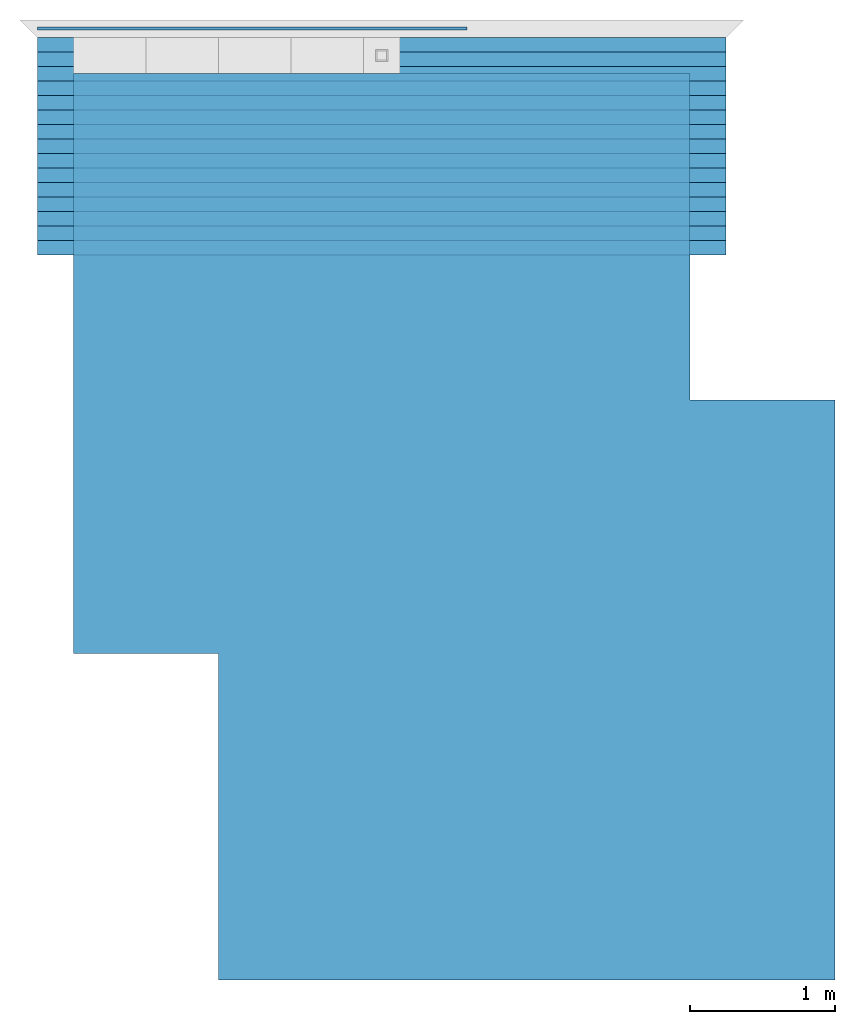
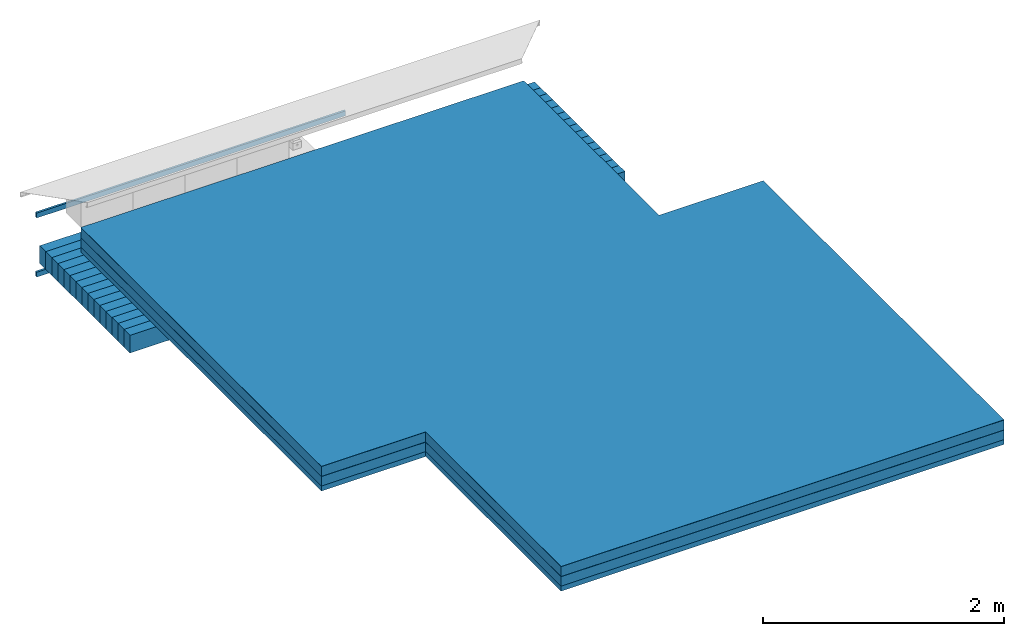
# One storey, part 1 of 2: 15 beams, 5 building element parts, 2 walls, 3 elements without a shape of their own.
"""IFC4 building model written with IfcOpenShell, lengths in centimetres."""

from ifc_helpers import new_model, entity, si_unit, converted_unit, direction, frame, origin, place, context, subcontext, project, spatial, indexed_curve, outline, extrude, source, transform, mapped, material, type_object, type_shapes, element, aggregate, save


model = new_model("IFC4")

# Units and contexts
model_context = context("Model", 3, precision=0.001, world=origin(), true_north=direction((0.0, 1.0)))
body_context = subcontext(model_context, "Body", "Model", "MODEL_VIEW")
ifc_project = project(units=[si_unit("LENGTHUNIT", "METRE", prefix="CENTI"), si_unit("AREAUNIT", "SQUARE_METRE"), si_unit("VOLUMEUNIT", "CUBIC_METRE"), converted_unit("PLANEANGLEUNIT", "DEGREE", entity("IfcPlaneAngleMeasure", 0.017453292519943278), si_unit("PLANEANGLEUNIT", "RADIAN"), dimensions=[0, 0, 0, 0, 0, 0, 0])], contexts=[model_context])

# Site, building, storey
site_placement = place(None, origin())
site = spatial("IfcSite", under=ifc_project, at=site_placement, Name="Default", CompositionType="ELEMENT")
building_placement = place(site_placement, origin())
building = spatial("IfcBuilding", under=site, at=building_placement, CompositionType="ELEMENT")
storey_placement = place(building_placement, frame((0.0, 0.0, 269.29999999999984)))
storey = spatial("IfcBuildingStorey", under=building, at=storey_placement, Name="L01__ABOVE Slab", CompositionType="ELEMENT", Elevation=269.29999999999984)

# Assembly, beams
assembly_placement = place(storey_placement, origin())
assembly = element("IfcElementAssembly", 1, at=assembly_placement, inside=storey, Name="Structural Beam Systems : Structural Beam System : Structural Beam System 1", AssemblyPlace="NOTDEFINED", PredefinedType="BEAM_GRID")
ifc_material_1 = material(Name="_STRUCTURE__Wood Solid")
beam_type = type_object("IfcBeamType", Name="Structural Framing : sfr__WOOD__Rectangular__sf : 10 x 18 cm", PredefinedType="JOIST", material=ifc_material_1)
shared_shape = source(origin(), body_context, "Body", "SweptSolid", [
    extrude(outline(indexed_curve([(-237.49999999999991, -5.000000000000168), (237.49999999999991, -5.000000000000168), (237.49999999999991, 5.000000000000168), (-237.49999999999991, 5.000000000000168), (-237.49999999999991, -5.000000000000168)], self_intersect=False)), frame((0.0, 0.0, -9.0), z_axis=(0.0, 0.0, 1.0), x_axis=(-1.0, 0.0, 0.0)), (0.0, 0.0, 1.0), 17.999999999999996),
])
type_shapes(beam_type, [shared_shape])
beam_1_placement = place(assembly_placement, frame((3350.525694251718, 2583.616415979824, -9.0)))
beam_1 = element("IfcBeam", 2, at=beam_1_placement, type_object=beam_type, material=ifc_material_1, Name="Structural Framing : sfr__WOOD__Rectangular__sf : 10 x 18 cm", PredefinedType="JOIST", context=body_context, shape_type="MappedRepresentation", body=[
    mapped(shared_shape, transform((0.0, 0.0, 0.0), scale=1.0)),
])
beam_2_placement = place(assembly_placement, frame((3350.525694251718, 2573.616415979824, -9.0)))
beam_2 = element("IfcBeam", 3, at=beam_2_placement, type_object=beam_type, material=ifc_material_1, Name="Structural Framing : sfr__WOOD__Rectangular__sf : 10 x 18 cm", PredefinedType="JOIST", context=body_context, shape_type="MappedRepresentation", body=[
    mapped(shared_shape, transform((0.0, 0.0, 0.0), scale=1.0)),
])
beam_3_placement = place(assembly_placement, frame((3350.525694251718, 2563.616415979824, -9.0)))
beam_3 = element("IfcBeam", 4, at=beam_3_placement, type_object=beam_type, material=ifc_material_1, Name="Structural Framing : sfr__WOOD__Rectangular__sf : 10 x 18 cm", PredefinedType="JOIST", context=body_context, shape_type="MappedRepresentation", body=[
    mapped(shared_shape, transform((0.0, 0.0, 0.0), scale=1.0)),
])
beam_4_placement = place(assembly_placement, frame((3350.525694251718, 2553.616415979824, -9.0)))
beam_4 = element("IfcBeam", 5, at=beam_4_placement, type_object=beam_type, material=ifc_material_1, Name="Structural Framing : sfr__WOOD__Rectangular__sf : 10 x 18 cm", PredefinedType="JOIST", context=body_context, shape_type="MappedRepresentation", body=[
    mapped(shared_shape, transform((0.0, 0.0, 0.0), scale=1.0)),
])
beam_5_placement = place(assembly_placement, frame((3350.525694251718, 2543.616415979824, -9.0)))
beam_5 = element("IfcBeam", 6, at=beam_5_placement, type_object=beam_type, material=ifc_material_1, Name="Structural Framing : sfr__WOOD__Rectangular__sf : 10 x 18 cm", PredefinedType="JOIST", context=body_context, shape_type="MappedRepresentation", body=[
    mapped(shared_shape, transform((0.0, 0.0, 0.0), scale=1.0)),
])
beam_6_placement = place(assembly_placement, frame((3350.525694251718, 2533.616415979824, -9.0)))
beam_6 = element("IfcBeam", 7, at=beam_6_placement, type_object=beam_type, material=ifc_material_1, Name="Structural Framing : sfr__WOOD__Rectangular__sf : 10 x 18 cm", PredefinedType="JOIST", context=body_context, shape_type="MappedRepresentation", body=[
    mapped(shared_shape, transform((0.0, 0.0, 0.0), scale=1.0)),
])
beam_7_placement = place(assembly_placement, frame((3350.525694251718, 2523.6164159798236, -9.0)))
beam_7 = element("IfcBeam", 8, at=beam_7_placement, type_object=beam_type, material=ifc_material_1, Name="Structural Framing : sfr__WOOD__Rectangular__sf : 10 x 18 cm", PredefinedType="JOIST", context=body_context, shape_type="MappedRepresentation", body=[
    mapped(shared_shape, transform((0.0, 0.0, 0.0), scale=1.0)),
])
beam_8_placement = place(assembly_placement, frame((3350.525694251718, 2513.616415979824, -9.0)))
beam_8 = element("IfcBeam", 9, at=beam_8_placement, type_object=beam_type, material=ifc_material_1, Name="Structural Framing : sfr__WOOD__Rectangular__sf : 10 x 18 cm", PredefinedType="JOIST", context=body_context, shape_type="MappedRepresentation", body=[
    mapped(shared_shape, transform((0.0, 0.0, 0.0), scale=1.0)),
])
beam_9_placement = place(assembly_placement, frame((3350.525694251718, 2503.616415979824, -9.0)))
beam_9 = element("IfcBeam", 10, at=beam_9_placement, type_object=beam_type, material=ifc_material_1, Name="Structural Framing : sfr__WOOD__Rectangular__sf : 10 x 18 cm", PredefinedType="JOIST", context=body_context, shape_type="MappedRepresentation", body=[
    mapped(shared_shape, transform((0.0, 0.0, 0.0), scale=1.0)),
])
beam_10_placement = place(assembly_placement, frame((3350.525694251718, 2493.616415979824, -9.0)))
beam_10 = element("IfcBeam", 11, at=beam_10_placement, type_object=beam_type, material=ifc_material_1, Name="Structural Framing : sfr__WOOD__Rectangular__sf : 10 x 18 cm", PredefinedType="JOIST", context=body_context, shape_type="MappedRepresentation", body=[
    mapped(shared_shape, transform((0.0, 0.0, 0.0), scale=1.0)),
])
beam_11_placement = place(assembly_placement, frame((3350.525694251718, 2483.616415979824, -9.0)))
beam_11 = element("IfcBeam", 12, at=beam_11_placement, type_object=beam_type, material=ifc_material_1, Name="Structural Framing : sfr__WOOD__Rectangular__sf : 10 x 18 cm", PredefinedType="JOIST", context=body_context, shape_type="MappedRepresentation", body=[
    mapped(shared_shape, transform((0.0, 0.0, 0.0), scale=1.0)),
])
beam_12_placement = place(assembly_placement, frame((3350.525694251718, 2473.616415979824, -9.0)))
beam_12 = element("IfcBeam", 13, at=beam_12_placement, type_object=beam_type, material=ifc_material_1, Name="Structural Framing : sfr__WOOD__Rectangular__sf : 10 x 18 cm", PredefinedType="JOIST", context=body_context, shape_type="MappedRepresentation", body=[
    mapped(shared_shape, transform((0.0, 0.0, 0.0), scale=1.0)),
])
beam_13_placement = place(assembly_placement, frame((3350.525694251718, 2463.616415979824, -9.0)))
beam_13 = element("IfcBeam", 14, at=beam_13_placement, type_object=beam_type, material=ifc_material_1, Name="Structural Framing : sfr__WOOD__Rectangular__sf : 10 x 18 cm", PredefinedType="JOIST", context=body_context, shape_type="MappedRepresentation", body=[
    mapped(shared_shape, transform((0.0, 0.0, 0.0), scale=1.0)),
])
beam_14_placement = place(assembly_placement, frame((3350.525694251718, 2453.616415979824, -9.0)))
beam_14 = element("IfcBeam", 15, at=beam_14_placement, type_object=beam_type, material=ifc_material_1, Name="Structural Framing : sfr__WOOD__Rectangular__sf : 10 x 18 cm", PredefinedType="JOIST", context=body_context, shape_type="MappedRepresentation", body=[
    mapped(shared_shape, transform((0.0, 0.0, 0.0), scale=1.0)),
])
beam_15_placement = place(assembly_placement, frame((3350.525694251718, 2443.6164159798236, -9.0)))
beam_15 = element("IfcBeam", 16, at=beam_15_placement, type_object=beam_type, material=ifc_material_1, Name="Structural Framing : sfr__WOOD__Rectangular__sf : 10 x 18 cm", PredefinedType="JOIST", context=body_context, shape_type="MappedRepresentation", body=[
    mapped(shared_shape, transform((0.0, 0.0, 0.0), scale=1.0)),
])
aggregate(assembly, [beam_1, beam_2, beam_3, beam_4, beam_5, beam_6, beam_7, beam_8, beam_9, beam_10, beam_11, beam_12, beam_13, beam_14, beam_15])

# Walls
for number, where, name in (
    (17, (0.0, 0.0, -35.0), "Parts : Part"),
    (18, (0.0, 0.0, 25.0), "Parts : Part"),
):
    element("IfcWall", number, at=place(storey_placement, frame(where)), inside=storey, material=ifc_material_1, Name=name, PredefinedType="NOTDEFINED", context=body_context, shape_type="SweptSolid", body=[
        extrude(outline(indexed_curve([(-1.000000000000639, -148.21192488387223), (0.9999999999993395, -148.21192488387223), (1.000000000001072, 148.21192488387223), (-0.9999999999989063, 148.21192488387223), (-1.000000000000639, -148.21192488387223)], self_intersect=False)), frame((3261.2376191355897, 2594.6164159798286, 0.0), z_axis=(0.0, 0.0, 1.0), x_axis=(0.0, -1.0, 0.0)), (0.0, 0.0, 1.0), 5.0),
    ])

# Slab, building element parts
slab_type_1 = type_object("IfcSlabType", Name="Floors : Floor : flr__EXT ENCLOSURE__WP, Foam Glass 20.4cm__Under Bsmt Slab, TriqBriq, TR.2", PredefinedType="FLOOR")
slab_1_placement = place(storey_placement, origin())
slab_1 = element("IfcSlab", 19, at=slab_1_placement, inside=storey, type_object=slab_type_1, Name="Floors : Floor : flr__EXT ENCLOSURE__WP, Foam Glass 20.4cm__Under Bsmt Slab, TriqBriq, TR.2", PredefinedType="FLOOR")
ifc_material_2 = material(Name="_FLR LAYERS__WP Membrane__EPDM", Category="Unassigned")
building_element_part_1_placement = place(slab_1_placement, origin())
building_element_part_1 = element("IfcBuildingElementPart", 20, at=building_element_part_1_placement, material=ifc_material_2, Name="_FLR LAYERS__WP Membrane__EPDM", context=body_context, shape_type="SweptSolid", body=[
    extrude(outline(indexed_curve([(-312.50000000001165, -262.4999999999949), (87.40000000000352, -262.4999999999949), (87.40000000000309, -162.50000000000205), (312.6000000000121, -162.50000000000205), (312.6000000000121, 262.4999999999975), (-87.5000000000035, 262.4999999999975), (-87.5000000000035, 162.49999999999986), (-312.50000000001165, 162.49999999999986), (-312.50000000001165, -262.4999999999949)], self_intersect=False)), frame((3400.5256942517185, 2251.1164159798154, 24.799999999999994), z_axis=(0.0, 0.0, 1.0), x_axis=(0.0, -1.0, 0.0)), (0.0, 0.0, 1.0), 0.20000000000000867),
])
ifc_material_3 = material(Name="_FND LAYERS__Insulation__Foam Glass__Glapor PG UMB1", Category="Unassigned")
building_element_part_2_placement = place(slab_1_placement, origin())
building_element_part_2 = element("IfcBuildingElementPart", 21, at=building_element_part_2_placement, material=ifc_material_3, Name="_FND LAYERS__Insulation__Foam Glass__Glapor PG UMB1", context=body_context, shape_type="SweptSolid", body=[
    extrude(outline(indexed_curve([(-312.50000000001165, -262.4999999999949), (87.40000000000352, -262.4999999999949), (87.40000000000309, -162.50000000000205), (312.6000000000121, -162.50000000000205), (312.6000000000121, 262.4999999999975), (-87.5000000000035, 262.4999999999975), (-87.5000000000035, 162.49999999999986), (-312.50000000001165, 162.49999999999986), (-312.50000000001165, -262.4999999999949)], self_intersect=False)), frame((3400.5256942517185, 2251.1164159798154, 14.800000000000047), z_axis=(0.0, 0.0, 1.0), x_axis=(0.0, -1.0, 0.0)), (0.0, 0.0, 1.0), 10.0),
])
ifc_material_4 = material(Name="_FLR LAYERS__Fleece__Glapor Connect", Category="Unassigned")
building_element_part_3_placement = place(slab_1_placement, origin())
building_element_part_3 = element("IfcBuildingElementPart", 22, at=building_element_part_3_placement, material=ifc_material_4, Name="_FLR LAYERS__Fleece__Glapor Connect", context=body_context, shape_type="SweptSolid", body=[
    extrude(outline(indexed_curve([(-312.50000000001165, -262.4999999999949), (87.40000000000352, -262.4999999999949), (87.40000000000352, -162.50000000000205), (312.6000000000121, -162.50000000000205), (312.6000000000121, 262.4999999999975), (-87.5000000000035, 262.4999999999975), (-87.5000000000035, 162.49999999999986), (-312.50000000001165, 162.49999999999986), (-312.50000000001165, -262.4999999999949)], self_intersect=False)), frame((3400.5256942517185, 2251.1164159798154, 14.599999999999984), z_axis=(0.0, 0.0, 1.0), x_axis=(0.0, -1.0, 0.0)), (0.0, 0.0, 1.0), 0.20000000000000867),
])
building_element_part_4_placement = place(slab_1_placement, origin())
building_element_part_4 = element("IfcBuildingElementPart", 23, at=building_element_part_4_placement, material=ifc_material_3, Name="_FND LAYERS__Insulation__Foam Glass__Glapor PG UMB1", context=body_context, shape_type="SweptSolid", body=[
    extrude(outline(indexed_curve([(-312.50000000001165, -262.4999999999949), (87.40000000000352, -262.4999999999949), (87.40000000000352, -162.50000000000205), (312.6000000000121, -162.50000000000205), (312.6000000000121, 262.4999999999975), (-87.5000000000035, 262.4999999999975), (-87.5000000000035, 162.49999999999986), (-312.50000000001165, 162.49999999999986), (-312.50000000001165, -262.4999999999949)], self_intersect=False)), frame((3400.5256942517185, 2251.1164159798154, 4.599999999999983), z_axis=(0.0, 0.0, 1.0), x_axis=(0.0, -1.0, 0.0)), (0.0, 0.0, 1.0), 10.0),
])
aggregate(slab_1, [building_element_part_1, building_element_part_2, building_element_part_3, building_element_part_4])

# Slab, building element part
slab_type_2 = type_object("IfcSlabType", Name="Floors : Floor : flr__EXT ENCLOSURE__5cm__TriqBriq, TR.1", PredefinedType="FLOOR")
slab_2_placement = place(storey_placement, origin())
slab_2 = element("IfcSlab", 24, at=slab_2_placement, inside=storey, type_object=slab_type_2, Name="Floors : Floor : flr__EXT ENCLOSURE__5cm__TriqBriq, TR.1", PredefinedType="FLOOR")
ifc_material_5 = material(Name="_FLR LAYERS__Screed__Dry__Cemwood 1000", Category="Unassigned")
building_element_part_5_placement = place(slab_2_placement, origin())
building_element_part_5 = element("IfcBuildingElementPart", 25, at=building_element_part_5_placement, material=ifc_material_5, Name="_FLR LAYERS__Screed__Dry__Cemwood 1000", context=body_context, shape_type="SweptSolid", body=[
    extrude(outline(indexed_curve([(-312.50000000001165, -262.49999999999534), (87.40000000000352, -262.49999999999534), (87.40000000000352, -162.50000000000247), (312.60000000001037, -162.5000000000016), (312.6000000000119, 262.4999999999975), (-87.50000000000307, 262.49999999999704), (-87.5000000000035, 162.49999999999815), (-312.50000000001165, 162.49999999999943), (-312.50000000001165, -262.49999999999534)], self_intersect=False)), frame((3400.525694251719, 2251.1164159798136, 0.0), z_axis=(0.0, 0.0, 1.0), x_axis=(0.0, -1.0, 0.0)), (0.0, 0.0, 1.0), 5.0),
])
aggregate(slab_2, [building_element_part_5])

save(model, "model.ifc")
